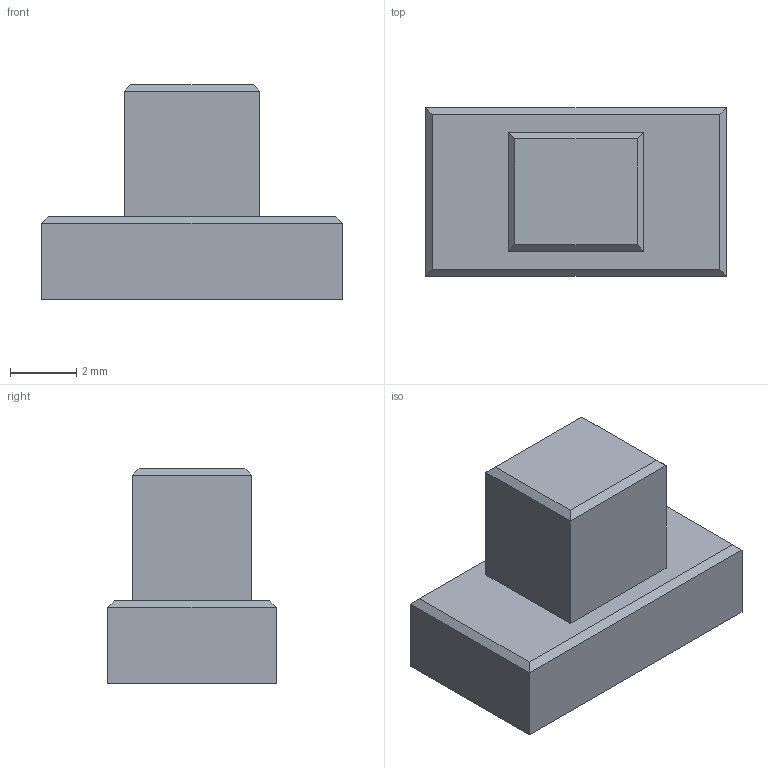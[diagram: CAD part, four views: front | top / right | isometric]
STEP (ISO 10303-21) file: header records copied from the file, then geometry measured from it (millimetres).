
FILE_DESCRIPTION(/* description */ (''),/* implementation_level */ '2;1');
FILE_NAME(/* name */ 'EduardoKeypadButton.stp',/* time_stamp */ '2026-02-20T20:46:56+01:00',/* author */ ('offt'),/* organization */ (''),/* preprocessor_version */ 'ST-DEVELOPER v20',/* originating_system */ 'Autodesk Inventor 2024',/* authorisation */ '');
FILE_SCHEMA (('AUTOMOTIVE_DESIGN { 1 0 10303 214 3 1 1 }'));
Length unit declared in the file: millimetre
Products named in the file (1): EduardoKeypadButton
Bounding box: 9.1 x 5.1 x 6.5 mm (x, y, z)
Volume: 158 mm3; surface area: 251.3 mm2
Topology: 1 solids, 1 shells, 28 faces, 60 edges, 36 vertices
Faces by surface type: plane 28
Entity records: 771 total; most frequent: CARTESIAN_POINT 125, ORIENTED_EDGE 120, DIRECTION 118, LINE 60, VECTOR 60, EDGE_CURVE 60, VERTEX_POINT 36, EDGE_LOOP 30
